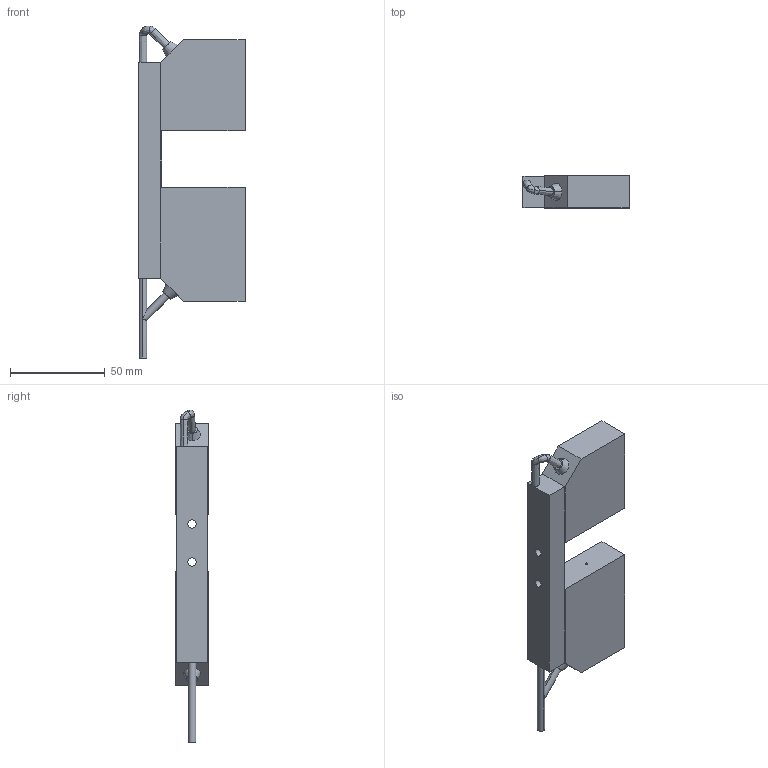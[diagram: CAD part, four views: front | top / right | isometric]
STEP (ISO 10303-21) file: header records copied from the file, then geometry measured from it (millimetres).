
FILE_DESCRIPTION (( 'STEP AP203' ), '1' );
FILE_NAME ('HD-T1030.STEP', '2005-11-09T07:09:36', ( '' ), ( '' ), 'SwSTEP 2.0', 'SolidWorks 2004073', '' );
FILE_SCHEMA (( 'CONFIG_CONTROL_DESIGN' ));
Length unit declared in the file: millimetre
Products named in the file (1): HD-T1030
Bounding box: 56 x 17 x 175.16 mm (x, y, z)
Volume: 100651.1 mm3; surface area: 21625.4 mm2
Topology: 1 solids, 1 shells, 75 faces, 175 edges, 110 vertices
Faces by surface type: plane 44, cylinder 17, bspline 10, cone 4
Entity records: 2522 total; most frequent: CARTESIAN_POINT 752, ORIENTED_EDGE 350, DIRECTION 337, EDGE_CURVE 175, VECTOR 115, LINE 115, AXIS2_PLACEMENT_3D 111, VERTEX_POINT 110
